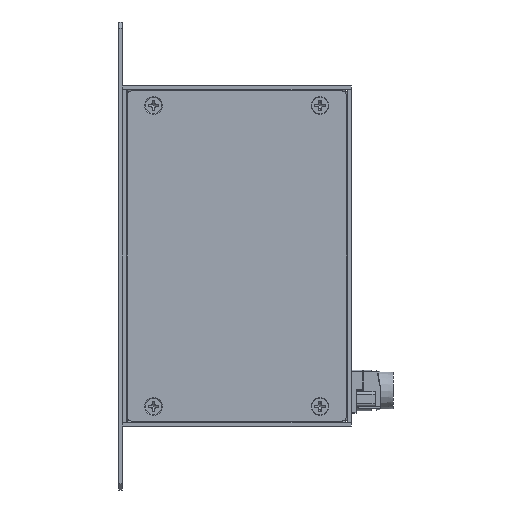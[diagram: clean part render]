
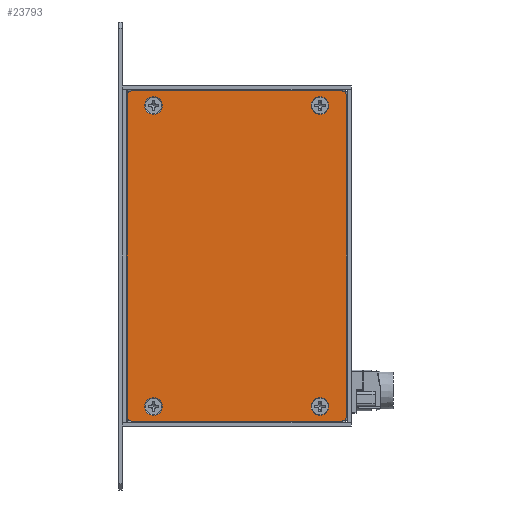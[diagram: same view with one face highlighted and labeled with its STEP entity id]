
A CAD part, front view. The second image highlights one B-rep face of the part: STEP entity #23793.
In plain terms, the highlighted planar face has unit normal (0, -1, 0).
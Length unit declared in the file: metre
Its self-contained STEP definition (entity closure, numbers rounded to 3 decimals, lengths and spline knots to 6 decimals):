
#539=LINE('',#38007,#3223);
#543=LINE('',#38016,#3227);
#549=LINE('',#38030,#3233);
#551=LINE('',#38034,#3235);
#3223=VECTOR('',#27738,1.);
#3227=VECTOR('',#27744,1.);
#3233=VECTOR('',#27752,1.);
#3235=VECTOR('',#27756,1.);
#5854=PLANE('',#25580);
#7187=CIRCLE('',#25581,0.003556);
#7188=CIRCLE('',#25582,0.003556);
#7189=CIRCLE('',#25583,0.003556);
#7190=CIRCLE('',#25584,0.003556);
#7191=CIRCLE('',#25585,0.001524);
#7192=CIRCLE('',#25586,0.001524);
#7193=CIRCLE('',#25587,0.001524);
#7194=CIRCLE('',#25588,0.001524);
#8360=ORIENTED_EDGE('',*,*,#14798,.T.);
#8361=ORIENTED_EDGE('',*,*,#14799,.T.);
#8362=ORIENTED_EDGE('',*,*,#14800,.T.);
#8363=ORIENTED_EDGE('',*,*,#14801,.T.);
#8364=ORIENTED_EDGE('',*,*,#14792,.F.);
#8365=ORIENTED_EDGE('',*,*,#14802,.T.);
#8366=ORIENTED_EDGE('',*,*,#14794,.F.);
#8367=ORIENTED_EDGE('',*,*,#14803,.T.);
#8368=ORIENTED_EDGE('',*,*,#14782,.T.);
#8369=ORIENTED_EDGE('',*,*,#14804,.T.);
#8370=ORIENTED_EDGE('',*,*,#14786,.T.);
#8371=ORIENTED_EDGE('',*,*,#14805,.T.);
#14782=EDGE_CURVE('',#18108,#18109,#539,.T.);
#14786=EDGE_CURVE('',#18112,#18113,#543,.T.);
#14792=EDGE_CURVE('',#18118,#18119,#549,.T.);
#14794=EDGE_CURVE('',#18120,#18121,#551,.T.);
#14798=EDGE_CURVE('',#18124,#18124,#7187,.T.);
#14799=EDGE_CURVE('',#18125,#18125,#7188,.T.);
#14800=EDGE_CURVE('',#18126,#18126,#7189,.T.);
#14801=EDGE_CURVE('',#18127,#18127,#7190,.T.);
#14802=EDGE_CURVE('',#18118,#18121,#7191,.T.);
#14803=EDGE_CURVE('',#18120,#18108,#7192,.T.);
#14804=EDGE_CURVE('',#18109,#18112,#7193,.T.);
#14805=EDGE_CURVE('',#18113,#18119,#7194,.T.);
#18108=VERTEX_POINT('',#38008);
#18109=VERTEX_POINT('',#38009);
#18112=VERTEX_POINT('',#38017);
#18113=VERTEX_POINT('',#38018);
#18118=VERTEX_POINT('',#38029);
#18119=VERTEX_POINT('',#38031);
#18120=VERTEX_POINT('',#38035);
#18121=VERTEX_POINT('',#38036);
#18124=VERTEX_POINT('',#38044);
#18125=VERTEX_POINT('',#38046);
#18126=VERTEX_POINT('',#38048);
#18127=VERTEX_POINT('',#38050);
#20368=EDGE_LOOP('',(#8360));
#20369=EDGE_LOOP('',(#8361));
#20370=EDGE_LOOP('',(#8362));
#20371=EDGE_LOOP('',(#8363));
#20372=EDGE_LOOP('',(#8364,#8365,#8366,#8367,#8368,#8369,#8370,#8371));
#22092=FACE_BOUND('',#20368,.T.);
#22093=FACE_BOUND('',#20369,.T.);
#22094=FACE_BOUND('',#20370,.T.);
#22095=FACE_BOUND('',#20371,.T.);
#22096=FACE_BOUND('',#20372,.T.);
#23793=ADVANCED_FACE('',(#22092,#22093,#22094,#22095,#22096),#5854,.T.);
#25580=AXIS2_PLACEMENT_3D('',#38042,#27760,#27761);
#25581=AXIS2_PLACEMENT_3D('',#38043,#27762,#27763);
#25582=AXIS2_PLACEMENT_3D('',#38045,#27764,#27765);
#25583=AXIS2_PLACEMENT_3D('',#38047,#27766,#27767);
#25584=AXIS2_PLACEMENT_3D('',#38049,#27768,#27769);
#25585=AXIS2_PLACEMENT_3D('',#38051,#27770,#27771);
#25586=AXIS2_PLACEMENT_3D('',#38052,#27772,#27773);
#25587=AXIS2_PLACEMENT_3D('',#38053,#27774,#27775);
#25588=AXIS2_PLACEMENT_3D('',#38054,#27776,#27777);
#27738=DIRECTION('',(1.,0.,0.));
#27744=DIRECTION('',(0.,0.,1.));
#27752=DIRECTION('',(1.,0.,0.));
#27756=DIRECTION('',(0.,0.,1.));
#27760=DIRECTION('',(0.,-1.,0.));
#27761=DIRECTION('',(0.,0.,-1.));
#27762=DIRECTION('',(0.,1.,0.));
#27763=DIRECTION('',(0.,0.,1.));
#27764=DIRECTION('',(0.,1.,0.));
#27765=DIRECTION('',(0.,0.,1.));
#27766=DIRECTION('',(0.,1.,0.));
#27767=DIRECTION('',(0.,0.,1.));
#27768=DIRECTION('',(0.,1.,0.));
#27769=DIRECTION('',(0.,0.,1.));
#27770=DIRECTION('',(0.,-1.,0.));
#27771=DIRECTION('',(0.,0.,-1.));
#27772=DIRECTION('',(0.,-1.,0.));
#27773=DIRECTION('',(0.,0.,-1.));
#27774=DIRECTION('',(0.,-1.,0.));
#27775=DIRECTION('',(0.,0.,-1.));
#27776=DIRECTION('',(0.,-1.,0.));
#27777=DIRECTION('',(0.,0.,-1.));
#38007=CARTESIAN_POINT('',(0.,-0.061722,-0.066993));
#38008=CARTESIAN_POINT('',(-0.042863,-0.061722,-0.066993));
#38009=CARTESIAN_POINT('',(0.042863,-0.061722,-0.066993));
#38016=CARTESIAN_POINT('',(0.044387,-0.061722,-0.066993));
#38017=CARTESIAN_POINT('',(0.044387,-0.061722,-0.065469));
#38018=CARTESIAN_POINT('',(0.044387,-0.061722,0.065469));
#38029=CARTESIAN_POINT('',(-0.042863,-0.061722,0.066993));
#38030=CARTESIAN_POINT('',(0.,-0.061722,0.066993));
#38031=CARTESIAN_POINT('',(0.042863,-0.061722,0.066993));
#38034=CARTESIAN_POINT('',(-0.044387,-0.061722,-0.066993));
#38035=CARTESIAN_POINT('',(-0.044387,-0.061722,-0.065469));
#38036=CARTESIAN_POINT('',(-0.044387,-0.061722,0.065469));
#38042=CARTESIAN_POINT('',(0.,-0.061722,-0.066993));
#38043=CARTESIAN_POINT('',(-0.033782,-0.061722,0.061087));
#38044=CARTESIAN_POINT('',(-0.033782,-0.061722,0.064643));
#38045=CARTESIAN_POINT('',(0.033782,-0.061722,-0.061087));
#38046=CARTESIAN_POINT('',(0.033782,-0.061722,-0.057531));
#38047=CARTESIAN_POINT('',(-0.033782,-0.061722,-0.061087));
#38048=CARTESIAN_POINT('',(-0.033782,-0.061722,-0.057531));
#38049=CARTESIAN_POINT('',(0.033782,-0.061722,0.061087));
#38050=CARTESIAN_POINT('',(0.033782,-0.061722,0.064643));
#38051=CARTESIAN_POINT('',(-0.042863,-0.061722,0.065469));
#38052=CARTESIAN_POINT('',(-0.042863,-0.061722,-0.065469));
#38053=CARTESIAN_POINT('',(0.042863,-0.061722,-0.065469));
#38054=CARTESIAN_POINT('',(0.042863,-0.061722,0.065469));
